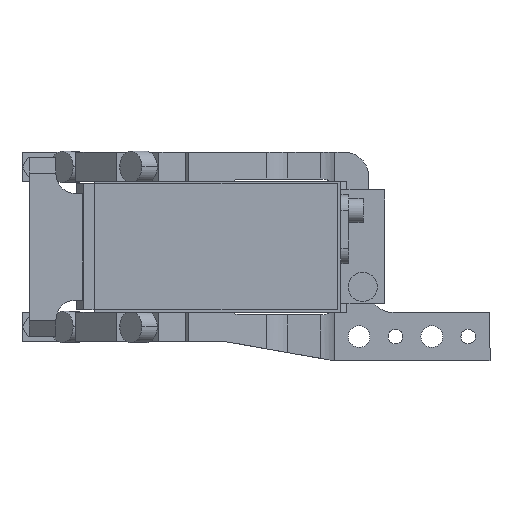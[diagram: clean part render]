
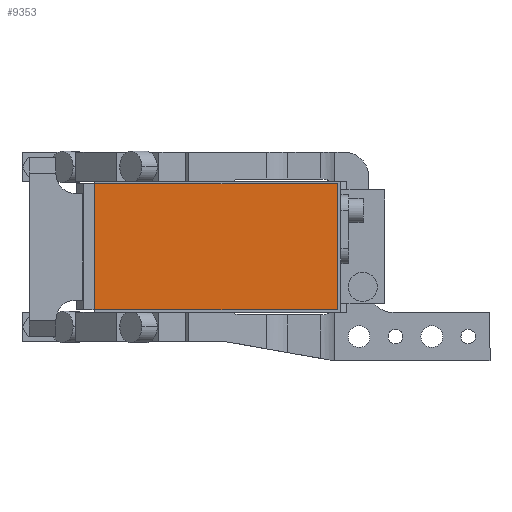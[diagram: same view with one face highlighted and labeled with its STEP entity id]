
A CAD part, front view. The second image highlights one B-rep face of the part: STEP entity #9353.
In plain terms, the highlighted planar face has unit normal (0, -1, 0).
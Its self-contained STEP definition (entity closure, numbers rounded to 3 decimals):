
#420 = DIRECTION ( 'NONE',  ( -1., 0., 0. ) ) ;
#477 = DIRECTION ( 'NONE',  ( 0., 0., -1. ) ) ;
#827 = FACE_OUTER_BOUND ( 'NONE', #13580, .T. ) ;
#880 = LINE ( 'NONE', #5575, #12414 ) ;
#901 = EDGE_CURVE ( 'NONE', #10025, #6114, #14427, .T. ) ;
#909 = CARTESIAN_POINT ( 'NONE',  ( -19., -286.5, 26. ) ) ;
#1039 = LINE ( 'NONE', #909, #14367 ) ;
#1556 = EDGE_CURVE ( 'NONE', #14001, #10025, #880, .T. ) ;
#2753 = PLANE ( 'NONE',  #6494 ) ;
#3269 = DIRECTION ( 'NONE',  ( 0., -1., 0. ) ) ;
#3382 = DIRECTION ( 'NONE',  ( 1., 0., 0. ) ) ;
#4878 = CARTESIAN_POINT ( 'NONE',  ( -19., -286.5, 26. ) ) ;
#5154 = CARTESIAN_POINT ( 'NONE',  ( 0., -286.5, 0. ) ) ;
#5221 = ORIENTED_EDGE ( 'NONE', *, *, #1556, .T. ) ;
#5575 = CARTESIAN_POINT ( 'NONE',  ( 81., -286.5, 26. ) ) ;
#6080 = CARTESIAN_POINT ( 'NONE',  ( 81., -286.5, 26. ) ) ;
#6109 = EDGE_CURVE ( 'NONE', #6114, #9067, #1039, .T. ) ;
#6114 = VERTEX_POINT ( 'NONE', #13859 ) ;
#6494 = AXIS2_PLACEMENT_3D ( 'NONE', #5154, #3269, #477 ) ;
#6578 = ORIENTED_EDGE ( 'NONE', *, *, #6109, .T. ) ;
#6659 = CARTESIAN_POINT ( 'NONE',  ( 81., -286.5, -26. ) ) ;
#7798 = ORIENTED_EDGE ( 'NONE', *, *, #901, .T. ) ;
#7991 = DIRECTION ( 'NONE',  ( 0., 0., 1. ) ) ;
#9065 = CARTESIAN_POINT ( 'NONE',  ( -19., -286.5, -26. ) ) ;
#9067 = VERTEX_POINT ( 'NONE', #9065 ) ;
#9223 = LINE ( 'NONE', #13733, #14267 ) ;
#9353 = ADVANCED_FACE ( 'NONE', ( #827 ), #2753, .T. ) ;
#10025 = VERTEX_POINT ( 'NONE', #6080 ) ;
#10548 = DIRECTION ( 'NONE',  ( 0., 0., -1. ) ) ;
#10692 = EDGE_CURVE ( 'NONE', #9067, #14001, #9223, .T. ) ;
#12414 = VECTOR ( 'NONE', #7991, 1000. ) ;
#13006 = ORIENTED_EDGE ( 'NONE', *, *, #10692, .T. ) ;
#13472 = VECTOR ( 'NONE', #420, 1000. ) ;
#13580 = EDGE_LOOP ( 'NONE', ( #6578, #13006, #5221, #7798 ) ) ;
#13733 = CARTESIAN_POINT ( 'NONE',  ( -19., -286.5, -26. ) ) ;
#13859 = CARTESIAN_POINT ( 'NONE',  ( -19., -286.5, 26. ) ) ;
#14001 = VERTEX_POINT ( 'NONE', #6659 ) ;
#14267 = VECTOR ( 'NONE', #3382, 1000. ) ;
#14367 = VECTOR ( 'NONE', #10548, 1000. ) ;
#14427 = LINE ( 'NONE', #4878, #13472 ) ;
